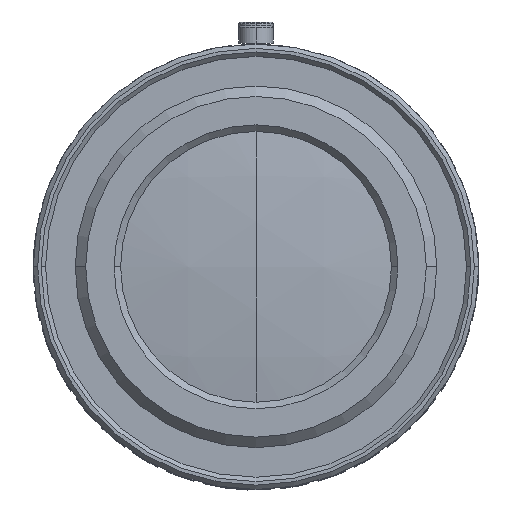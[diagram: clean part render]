
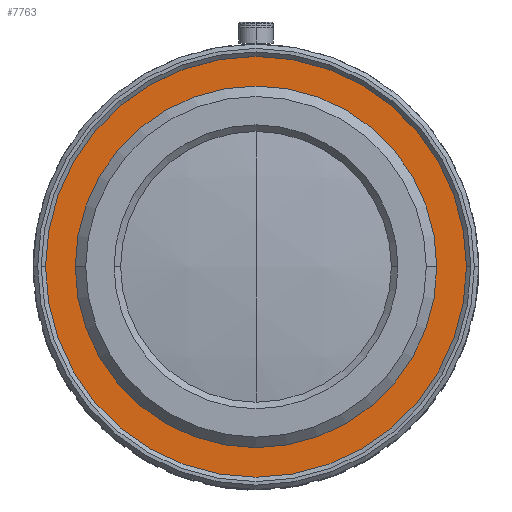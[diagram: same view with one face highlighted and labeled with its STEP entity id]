
A CAD part, top view. The second image highlights one B-rep face of the part: STEP entity #7763.
In plain terms, the highlighted planar face has unit normal (0, 0, 1).
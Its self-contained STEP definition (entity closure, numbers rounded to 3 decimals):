
#26 = EDGE_CURVE ( 'NONE', #9888, #4343, #8255, .T. ) ;
#198 = VERTEX_POINT ( 'NONE', #352 ) ;
#352 = CARTESIAN_POINT ( 'NONE',  ( 20.7, 0., 71.96 ) ) ;
#986 = CARTESIAN_POINT ( 'NONE',  ( 0., 0., 71.96 ) ) ;
#1174 = DIRECTION ( 'NONE',  ( -1., 0., 0. ) ) ;
#1399 = FACE_BOUND ( 'NONE', #5138, .T. ) ;
#1845 = DIRECTION ( 'NONE',  ( 0., 0., -1. ) ) ;
#1892 = DIRECTION ( 'NONE',  ( -1., 0., 0. ) ) ;
#1943 = ORIENTED_EDGE ( 'NONE', *, *, #10148, .T. ) ;
#2460 = AXIS2_PLACEMENT_3D ( 'NONE', #8765, #3455, #9607 ) ;
#3209 = CARTESIAN_POINT ( 'NONE',  ( 0., 24.095, 71.96 ) ) ;
#3416 = EDGE_CURVE ( 'NONE', #6090, #198, #4601, .T. ) ;
#3455 = DIRECTION ( 'NONE',  ( 0., 0., -1. ) ) ;
#3515 = AXIS2_PLACEMENT_3D ( 'NONE', #7460, #8323, #1174 ) ;
#4146 = EDGE_CURVE ( 'NONE', #4343, #9888, #4846, .T. ) ;
#4271 = ORIENTED_EDGE ( 'NONE', *, *, #4146, .F. ) ;
#4343 = VERTEX_POINT ( 'NONE', #4862 ) ;
#4511 = ORIENTED_EDGE ( 'NONE', *, *, #3416, .T. ) ;
#4601 = CIRCLE ( 'NONE', #5904, 20.7 ) ;
#4846 = CIRCLE ( 'NONE', #7271, 24.095 ) ;
#4862 = CARTESIAN_POINT ( 'NONE',  ( -24.095, 0., 71.96 ) ) ;
#5029 = DIRECTION ( 'NONE',  ( 0., 0., 1. ) ) ;
#5070 = EDGE_LOOP ( 'NONE', ( #4271, #5953 ) ) ;
#5138 = EDGE_LOOP ( 'NONE', ( #4511, #1943 ) ) ;
#5904 = AXIS2_PLACEMENT_3D ( 'NONE', #986, #7268, #1892 ) ;
#5953 = ORIENTED_EDGE ( 'NONE', *, *, #26, .F. ) ;
#6090 = VERTEX_POINT ( 'NONE', #10694 ) ;
#6205 = PLANE ( 'NONE',  #6509 ) ;
#6509 = AXIS2_PLACEMENT_3D ( 'NONE', #3209, #5029, #11083 ) ;
#7230 = CARTESIAN_POINT ( 'NONE',  ( 0., 0., 71.96 ) ) ;
#7268 = DIRECTION ( 'NONE',  ( 0., 0., -1. ) ) ;
#7271 = AXIS2_PLACEMENT_3D ( 'NONE', #7230, #1845, #8096 ) ;
#7460 = CARTESIAN_POINT ( 'NONE',  ( 0., 0., 71.96 ) ) ;
#7763 = ADVANCED_FACE ( 'NONE', ( #1399, #8256 ), #6205, .T. ) ;
#7779 = CARTESIAN_POINT ( 'NONE',  ( 24.095, 0., 71.96 ) ) ;
#8096 = DIRECTION ( 'NONE',  ( -1., 0., 0. ) ) ;
#8255 = CIRCLE ( 'NONE', #3515, 24.095 ) ;
#8256 = FACE_OUTER_BOUND ( 'NONE', #5070, .T. ) ;
#8323 = DIRECTION ( 'NONE',  ( 0., 0., -1. ) ) ;
#8765 = CARTESIAN_POINT ( 'NONE',  ( 0., 0., 71.96 ) ) ;
#9607 = DIRECTION ( 'NONE',  ( -1., 0., 0. ) ) ;
#9820 = CIRCLE ( 'NONE', #2460, 20.7 ) ;
#9888 = VERTEX_POINT ( 'NONE', #7779 ) ;
#10148 = EDGE_CURVE ( 'NONE', #198, #6090, #9820, .T. ) ;
#10694 = CARTESIAN_POINT ( 'NONE',  ( -20.7, 0., 71.96 ) ) ;
#11083 = DIRECTION ( 'NONE',  ( 1., 0., 0. ) ) ;
